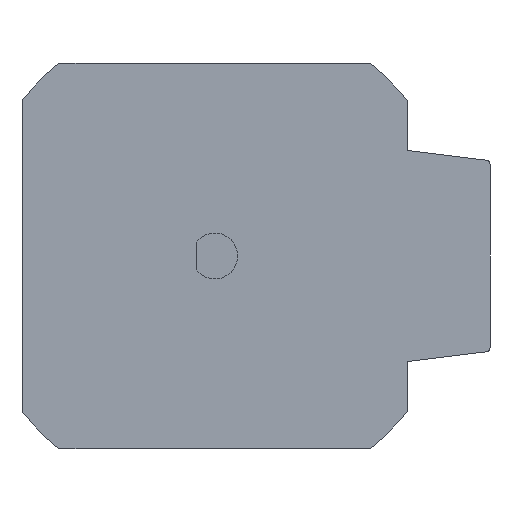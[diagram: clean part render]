
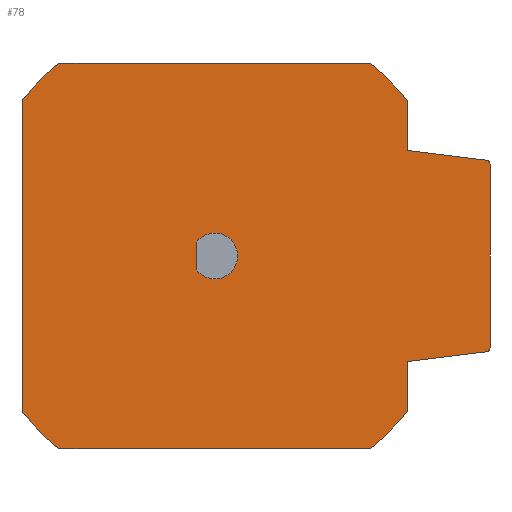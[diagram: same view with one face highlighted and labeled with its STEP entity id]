
A CAD part, left-side view. The second image highlights one B-rep face of the part: STEP entity #78.
In plain terms, the highlighted planar face has unit normal (-1, 0, 0).
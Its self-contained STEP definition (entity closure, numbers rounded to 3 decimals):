
#78 = ADVANCED_FACE( '', ( #188, #189 ), #190, .F. );
#188 = FACE_BOUND( '', #440, .T. );
#189 = FACE_OUTER_BOUND( '', #441, .T. );
#190 = PLANE( '', #442 );
#440 = EDGE_LOOP( '', ( #705, #706 ) );
#441 = EDGE_LOOP( '', ( #707, #708, #709, #710, #711, #712, #713, #714, #715, #716, #717, #718, #719, #720 ) );
#442 = AXIS2_PLACEMENT_3D( '', #721, #722, #723 );
#705 = ORIENTED_EDGE( '', *, *, #1487, .F. );
#706 = ORIENTED_EDGE( '', *, *, #1485, .F. );
#707 = ORIENTED_EDGE( '', *, *, #1488, .F. );
#708 = ORIENTED_EDGE( '', *, *, #1489, .F. );
#709 = ORIENTED_EDGE( '', *, *, #1490, .F. );
#710 = ORIENTED_EDGE( '', *, *, #1491, .F. );
#711 = ORIENTED_EDGE( '', *, *, #1492, .F. );
#712 = ORIENTED_EDGE( '', *, *, #1493, .F. );
#713 = ORIENTED_EDGE( '', *, *, #1494, .F. );
#714 = ORIENTED_EDGE( '', *, *, #1495, .F. );
#715 = ORIENTED_EDGE( '', *, *, #1496, .F. );
#716 = ORIENTED_EDGE( '', *, *, #1497, .F. );
#717 = ORIENTED_EDGE( '', *, *, #1498, .F. );
#718 = ORIENTED_EDGE( '', *, *, #1499, .F. );
#719 = ORIENTED_EDGE( '', *, *, #1500, .F. );
#720 = ORIENTED_EDGE( '', *, *, #1501, .F. );
#721 = CARTESIAN_POINT( '', ( -59., 0., 0. ) );
#722 = DIRECTION( '', ( 1., 0., 0. ) );
#723 = DIRECTION( '', ( 0., 0., -1. ) );
#1485 = EDGE_CURVE( '', #1729, #1731, #1732, .T. );
#1487 = EDGE_CURVE( '', #1731, #1729, #1734, .F. );
#1488 = EDGE_CURVE( '', #1735, #1736, #1737, .T. );
#1489 = EDGE_CURVE( '', #1738, #1735, #1739, .T. );
#1490 = EDGE_CURVE( '', #1740, #1738, #1741, .T. );
#1491 = EDGE_CURVE( '', #1742, #1740, #1743, .T. );
#1492 = EDGE_CURVE( '', #1744, #1742, #1745, .T. );
#1493 = EDGE_CURVE( '', #1746, #1744, #1747, .T. );
#1494 = EDGE_CURVE( '', #1748, #1746, #1749, .T. );
#1495 = EDGE_CURVE( '', #1750, #1748, #1751, .T. );
#1496 = EDGE_CURVE( '', #1752, #1750, #1753, .T. );
#1497 = EDGE_CURVE( '', #1754, #1752, #1755, .T. );
#1498 = EDGE_CURVE( '', #1756, #1754, #1757, .T. );
#1499 = EDGE_CURVE( '', #1758, #1756, #1759, .T. );
#1500 = EDGE_CURVE( '', #1760, #1758, #1761, .T. );
#1501 = EDGE_CURVE( '', #1736, #1760, #1762, .T. );
#1729 = VERTEX_POINT( '', #2132 );
#1731 = VERTEX_POINT( '', #2135 );
#1732 = LINE( '', #2136, #2137 );
#1734 = CIRCLE( '', #2140, 2.5 );
#1735 = VERTEX_POINT( '', #2141 );
#1736 = VERTEX_POINT( '', #2142 );
#1737 = CIRCLE( '', #2143, 27. );
#1738 = VERTEX_POINT( '', #2144 );
#1739 = LINE( '', #2145, #2146 );
#1740 = VERTEX_POINT( '', #2147 );
#1741 = CIRCLE( '', #2148, 27. );
#1742 = VERTEX_POINT( '', #2149 );
#1743 = LINE( '', #2150, #2151 );
#1744 = VERTEX_POINT( '', #2152 );
#1745 = CIRCLE( '', #2153, 27. );
#1746 = VERTEX_POINT( '', #2154 );
#1747 = LINE( '', #2155, #2156 );
#1748 = VERTEX_POINT( '', #2157 );
#1749 = LINE( '', #2158, #2159 );
#1750 = VERTEX_POINT( '', #2160 );
#1751 = CIRCLE( '', #2161, 0.5 );
#1752 = VERTEX_POINT( '', #2162 );
#1753 = LINE( '', #2163, #2164 );
#1754 = VERTEX_POINT( '', #2165 );
#1755 = CIRCLE( '', #2166, 0.5 );
#1756 = VERTEX_POINT( '', #2167 );
#1757 = LINE( '', #2168, #2169 );
#1758 = VERTEX_POINT( '', #2170 );
#1759 = LINE( '', #2171, #2172 );
#1760 = VERTEX_POINT( '', #2173 );
#1761 = CIRCLE( '', #2174, 27. );
#1762 = LINE( '', #2175, #2176 );
#2132 = CARTESIAN_POINT( '', ( -59., 2., 1.5 ) );
#2135 = CARTESIAN_POINT( '', ( -59., 2., -1.5 ) );
#2136 = CARTESIAN_POINT( '', ( -59., 2., 2. ) );
#2137 = VECTOR( '', #2680, 1000. );
#2140 = AXIS2_PLACEMENT_3D( '', #2682, #2683, #2684 );
#2141 = CARTESIAN_POINT( '', ( -59., 21., 16.971 ) );
#2142 = CARTESIAN_POINT( '', ( -59., 16.971, 21. ) );
#2143 = AXIS2_PLACEMENT_3D( '', #2685, #2686, #2687 );
#2144 = CARTESIAN_POINT( '', ( -59., 21., -16.971 ) );
#2145 = CARTESIAN_POINT( '', ( -59., 21., -16.971 ) );
#2146 = VECTOR( '', #2688, 1000. );
#2147 = CARTESIAN_POINT( '', ( -59., 16.971, -21. ) );
#2148 = AXIS2_PLACEMENT_3D( '', #2689, #2690, #2691 );
#2149 = CARTESIAN_POINT( '', ( -59., -16.971, -21. ) );
#2150 = CARTESIAN_POINT( '', ( -59., -16.971, -21. ) );
#2151 = VECTOR( '', #2692, 1000. );
#2152 = CARTESIAN_POINT( '', ( -59., -21., -16.971 ) );
#2153 = AXIS2_PLACEMENT_3D( '', #2693, #2694, #2695 );
#2154 = CARTESIAN_POINT( '', ( -59., -21., -11.5 ) );
#2155 = CARTESIAN_POINT( '', ( -59., -21., 16.971 ) );
#2156 = VECTOR( '', #2696, 1000. );
#2157 = CARTESIAN_POINT( '', ( -59., -29.561, -10.449 ) );
#2158 = CARTESIAN_POINT( '', ( -59., -29.561, -10.449 ) );
#2159 = VECTOR( '', #2697, 1000. );
#2160 = CARTESIAN_POINT( '', ( -59., -30., -9.953 ) );
#2161 = AXIS2_PLACEMENT_3D( '', #2698, #2699, #2700 );
#2162 = CARTESIAN_POINT( '', ( -59., -30., 9.953 ) );
#2163 = CARTESIAN_POINT( '', ( -59., -30., 9.953 ) );
#2164 = VECTOR( '', #2701, 1000. );
#2165 = CARTESIAN_POINT( '', ( -59., -29.561, 10.449 ) );
#2166 = AXIS2_PLACEMENT_3D( '', #2702, #2703, #2704 );
#2167 = CARTESIAN_POINT( '', ( -59., -21., 11.5 ) );
#2168 = CARTESIAN_POINT( '', ( -59., -21., 11.5 ) );
#2169 = VECTOR( '', #2705, 1000. );
#2170 = CARTESIAN_POINT( '', ( -59., -21., 16.971 ) );
#2171 = CARTESIAN_POINT( '', ( -59., -21., 16.971 ) );
#2172 = VECTOR( '', #2706, 1000. );
#2173 = CARTESIAN_POINT( '', ( -59., -16.971, 21. ) );
#2174 = AXIS2_PLACEMENT_3D( '', #2707, #2708, #2709 );
#2175 = CARTESIAN_POINT( '', ( -59., 16.971, 21. ) );
#2176 = VECTOR( '', #2710, 1000. );
#2680 = DIRECTION( '', ( 0., 0., -1. ) );
#2682 = CARTESIAN_POINT( '', ( -59., 0., 0. ) );
#2683 = DIRECTION( '', ( 1., 0., 0. ) );
#2684 = DIRECTION( '', ( 0., 0., -1. ) );
#2685 = CARTESIAN_POINT( '', ( -59., 0., 0. ) );
#2686 = DIRECTION( '', ( 1., 0., 0. ) );
#2687 = DIRECTION( '', ( 0., 0., -1. ) );
#2688 = DIRECTION( '', ( 0., 0., 1. ) );
#2689 = CARTESIAN_POINT( '', ( -59., 0., 0. ) );
#2690 = DIRECTION( '', ( 1., 0., 0. ) );
#2691 = DIRECTION( '', ( 0., 0., -1. ) );
#2692 = DIRECTION( '', ( 0., 1., 0. ) );
#2693 = CARTESIAN_POINT( '', ( -59., 0., 0. ) );
#2694 = DIRECTION( '', ( 1., 0., 0. ) );
#2695 = DIRECTION( '', ( 0., 0., -1. ) );
#2696 = DIRECTION( '', ( 0., 0., -1. ) );
#2697 = DIRECTION( '', ( 0., 0.993, -0.122 ) );
#2698 = CARTESIAN_POINT( '', ( -59., -29.5, -9.953 ) );
#2699 = DIRECTION( '', ( 1., 0., 0. ) );
#2700 = DIRECTION( '', ( 0., 0., -1. ) );
#2701 = DIRECTION( '', ( 0., 0., -1. ) );
#2702 = CARTESIAN_POINT( '', ( -59., -29.5, 9.953 ) );
#2703 = DIRECTION( '', ( 1., 0., 0. ) );
#2704 = DIRECTION( '', ( 0., 0., -1. ) );
#2705 = DIRECTION( '', ( 0., -0.993, -0.122 ) );
#2706 = DIRECTION( '', ( 0., 0., -1. ) );
#2707 = CARTESIAN_POINT( '', ( -59., 0., 0. ) );
#2708 = DIRECTION( '', ( 1., 0., 0. ) );
#2709 = DIRECTION( '', ( 0., 0., -1. ) );
#2710 = DIRECTION( '', ( 0., -1., 0. ) );
